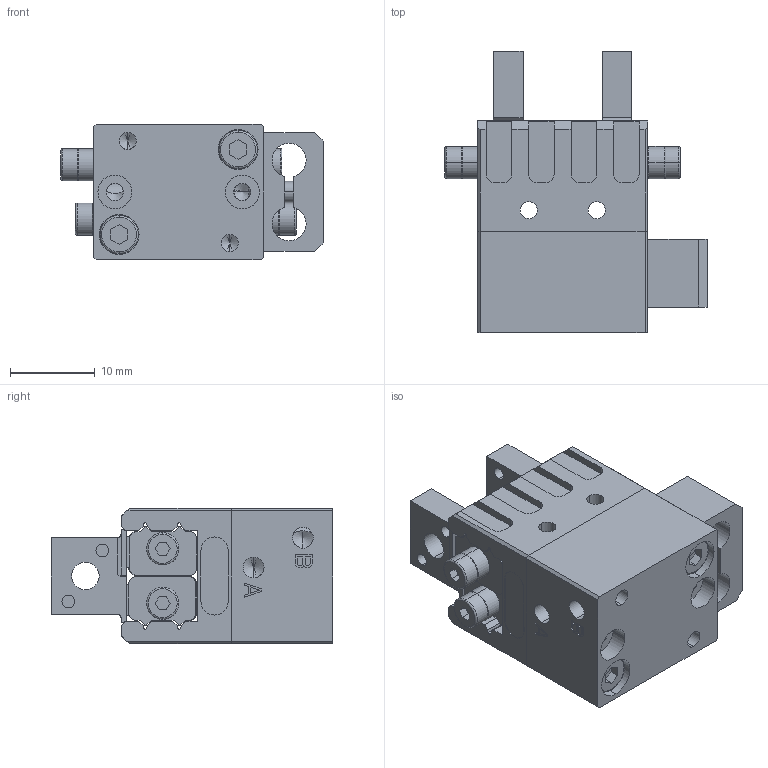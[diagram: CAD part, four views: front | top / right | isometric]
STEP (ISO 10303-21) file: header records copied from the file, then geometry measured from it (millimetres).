
FILE_DESCRIPTION (( 'STEP AP214' ), '1' );
FILE_NAME ('CA.MPG.20.STEP', '2018-01-15T12:38:28', ( 'PC WORKSTATION' ), ( '' ), 'SwSTEP 2.0', 'SolidWorks 2017', '' );
FILE_SCHEMA (( 'AUTOMOTIVE_DESIGN' ));
Length unit declared in the file: millimetre
Products named in the file (7): _SCHUNK-9646119 Halter MPG 20_25_32_40_50; _SCHUNK-9965219-Scheibe D3_8; _SCHUNK-9962711 Bracket MPG 20; _SCHUNK-5520811 Finger MPG-plus 20; _SCHUNK-5520809 Abdeckgehaeuse MPG-plus 20; _SCHUNK-5520810 housing MPG-plus 20; CA.MPG.20
Assembly tree (13 placements, depth 2):
  CA.MPG.20
    _SCHUNK-5520810 housing MPG-plus 20
    _SCHUNK-5520809 Abdeckgehaeuse MPG-plus 20
    _SCHUNK-5520811 Finger MPG-plus 20  x2
    _SCHUNK-9962711 Bracket MPG 20  x4
    _SCHUNK-9965219-Scheibe D3_8  x4
    _SCHUNK-9646119 Halter MPG 20_25_32_40_50
Bounding box: 30.85 x 33.1 x 16 mm (x, y, z)
Volume: 7594.1 mm3; surface area: 7660.3 mm2
Topology: 13 solids, 13 shells, 602 faces, 1568 edges, 1009 vertices
Faces by surface type: plane 335, cylinder 196, cone 59, torus 12
Entity records: 14197 total; most frequent: CARTESIAN_POINT 2393, DIRECTION 2181, ORIENTED_EDGE 2148, EDGE_CURVE 1074, LINE 763, VECTOR 763, AXIS2_PLACEMENT_3D 709, VERTEX_POINT 705
